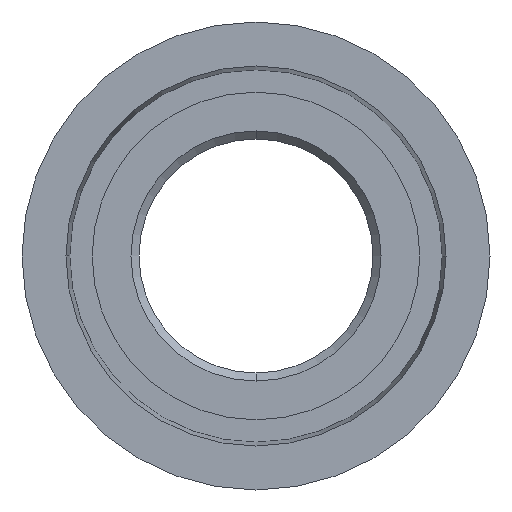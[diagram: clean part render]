
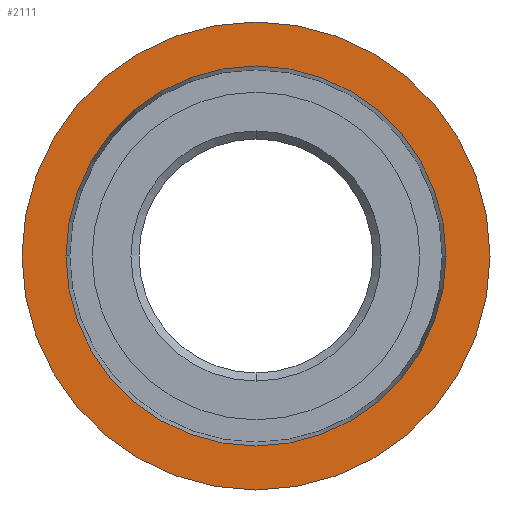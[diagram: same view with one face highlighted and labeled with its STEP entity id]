
A CAD part, left-side view. The second image highlights one B-rep face of the part: STEP entity #2111.
In plain terms, the highlighted planar face has unit normal (-1, 0, 0).
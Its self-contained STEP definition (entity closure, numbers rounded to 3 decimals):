
#77 = CARTESIAN_POINT ( 'NONE',  ( 0., 18.27, 0. ) ) ;
#141 = CIRCLE ( 'NONE', #5260, 18.27 ) ;
#291 = DIRECTION ( 'NONE',  ( 0., 0., -1. ) ) ;
#414 = PLANE ( 'NONE',  #5368 ) ;
#671 = CARTESIAN_POINT ( 'NONE',  ( 0., 0., 22.5 ) ) ;
#947 = VERTEX_POINT ( 'NONE', #1330 ) ;
#1039 = ORIENTED_EDGE ( 'NONE', *, *, #6007, .T. ) ;
#1064 = CARTESIAN_POINT ( 'NONE',  ( 0., -18.27, 0. ) ) ;
#1123 = CARTESIAN_POINT ( 'NONE',  ( 0., 0., 0. ) ) ;
#1197 = DIRECTION ( 'NONE',  ( -1., 0., 0. ) ) ;
#1330 = CARTESIAN_POINT ( 'NONE',  ( 0., 0., -22.5 ) ) ;
#1408 = AXIS2_PLACEMENT_3D ( 'NONE', #3578, #3577, #3571 ) ;
#1591 = EDGE_CURVE ( 'NONE', #2026, #2286, #5481, .T. ) ;
#1658 = AXIS2_PLACEMENT_3D ( 'NONE', #1123, #4770, #1708 ) ;
#1708 = DIRECTION ( 'NONE',  ( 0., -1., 0. ) ) ;
#2026 = VERTEX_POINT ( 'NONE', #1064 ) ;
#2111 = ADVANCED_FACE ( 'NONE', ( #3592, #3659 ), #414, .F. ) ;
#2184 = VERTEX_POINT ( 'NONE', #671 ) ;
#2277 = CARTESIAN_POINT ( 'NONE',  ( 0., 0., 0. ) ) ;
#2286 = VERTEX_POINT ( 'NONE', #77 ) ;
#2407 = CIRCLE ( 'NONE', #5553, 22.5 ) ;
#2421 = ORIENTED_EDGE ( 'NONE', *, *, #5511, .T. ) ;
#3436 = CIRCLE ( 'NONE', #1408, 22.5 ) ;
#3571 = DIRECTION ( 'NONE',  ( 0., 0., 1. ) ) ;
#3577 = DIRECTION ( 'NONE',  ( -1., 0., 0. ) ) ;
#3578 = CARTESIAN_POINT ( 'NONE',  ( 0., 0., 0. ) ) ;
#3592 = FACE_OUTER_BOUND ( 'NONE', #4723, .T. ) ;
#3659 = FACE_BOUND ( 'NONE', #5170, .T. ) ;
#4723 = EDGE_LOOP ( 'NONE', ( #1039, #2421 ) ) ;
#4770 = DIRECTION ( 'NONE',  ( -1., 0., 0. ) ) ;
#5144 = DIRECTION ( 'NONE',  ( 1., 0., 0. ) ) ;
#5170 = EDGE_LOOP ( 'NONE', ( #5501, #5507 ) ) ;
#5205 = DIRECTION ( 'NONE',  ( 0., 0., 1. ) ) ;
#5212 = CARTESIAN_POINT ( 'NONE',  ( 0., 0., 0. ) ) ;
#5260 = AXIS2_PLACEMENT_3D ( 'NONE', #5278, #5276, #5270 ) ;
#5270 = DIRECTION ( 'NONE',  ( 0., -1., 0. ) ) ;
#5276 = DIRECTION ( 'NONE',  ( -1., 0., 0. ) ) ;
#5278 = CARTESIAN_POINT ( 'NONE',  ( 0., 0., 0. ) ) ;
#5368 = AXIS2_PLACEMENT_3D ( 'NONE', #2277, #5144, #291 ) ;
#5439 = EDGE_CURVE ( 'NONE', #2286, #2026, #141, .T. ) ;
#5481 = CIRCLE ( 'NONE', #1658, 18.27 ) ;
#5501 = ORIENTED_EDGE ( 'NONE', *, *, #1591, .F. ) ;
#5507 = ORIENTED_EDGE ( 'NONE', *, *, #5439, .F. ) ;
#5511 = EDGE_CURVE ( 'NONE', #947, #2184, #2407, .T. ) ;
#5553 = AXIS2_PLACEMENT_3D ( 'NONE', #5212, #1197, #5205 ) ;
#6007 = EDGE_CURVE ( 'NONE', #2184, #947, #3436, .T. ) ;
